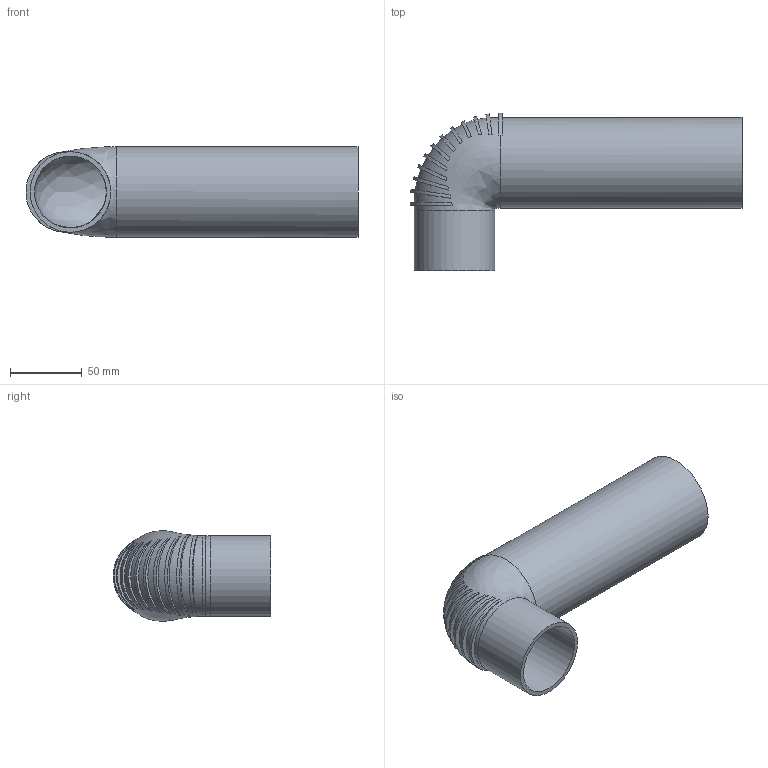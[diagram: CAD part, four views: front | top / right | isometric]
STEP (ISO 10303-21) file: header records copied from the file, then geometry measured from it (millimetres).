
FILE_DESCRIPTION(/* description */ (''),/* implementation_level */ '2;1');
FILE_NAME(/* name */ 'Z:\Geberit\Export\NewStep\305906.stp',/* time_stamp */ '2014-04-01T20:03:09+02:00',/* author */ ('Judith'),/* organization */ (''),/* preprocessor_version */ 'ST-DEVELOPER v15.2',/* originating_system */ 'Autodesk Inventor 2014',/* authorisation */ '');
FILE_SCHEMA (('AUTOMOTIVE_DESIGN { 1 0 10303 214 3 1 1 }'));
Length unit declared in the file: millimetre
Products named in the file (1): 305906
Bounding box: 230.9 x 109.4 x 63 mm (x, y, z)
Volume: 153554.3 mm3; surface area: 99621.3 mm2
Topology: 1 solids, 1 shells, 44 faces, 97 edges, 66 vertices
Faces by surface type: plane 26, cylinder 16, bspline 2
Full cylindrical faces by diameter (mm): 50 x1, 56 x1, 57 x1, 63 x1
Entity records: 2291 total; most frequent: CARTESIAN_POINT 1323, ORIENTED_EDGE 184, DIRECTION 170, EDGE_CURVE 92, AXIS2_PLACEMENT_3D 84, VERTEX_POINT 65, EDGE_LOOP 61, B_SPLINE_CURVE_WITH_KNOTS 49
